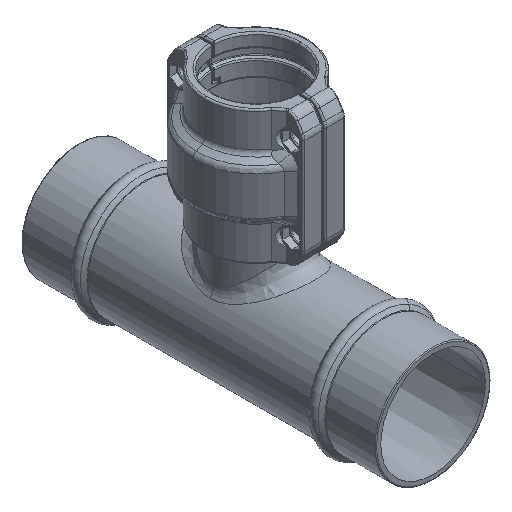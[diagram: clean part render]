
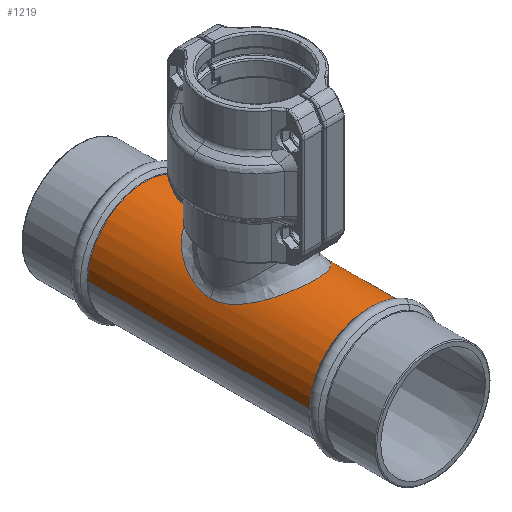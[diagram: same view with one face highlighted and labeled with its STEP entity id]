
A CAD part, isometric view. The second image highlights one B-rep face of the part: STEP entity #1219.
In plain terms, the highlighted cylindrical face has radius 34 mm (diameter 68 mm), a partial arc.
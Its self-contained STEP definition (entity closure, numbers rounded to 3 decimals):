
#237=FACE_BOUND('',#2563,.T.);
#238=FACE_BOUND('',#2564,.T.);
#384=B_SPLINE_CURVE_WITH_KNOTS('',3,(#14492,#14493,#14494,#14495,#14496,
#14497,#14498,#14499,#14500,#14501,#14502,#14503,#14504,#14505,#14506,#14507,
#14508,#14509,#14510,#14511,#14512,#14513),.UNSPECIFIED.,.F.,.F.,(4,1,1,
1,1,1,1,1,1,1,1,1,1,1,1,1,1,1,1,4),(0.,0.055,0.109,
0.168,0.227,0.287,0.346,
0.393,0.44,0.488,0.536,0.58,
0.624,0.68,0.737,0.793,
0.849,0.915,0.958,1.),.UNSPECIFIED.);
#386=B_SPLINE_CURVE_WITH_KNOTS('',3,(#14676,#14677,#14678,#14679,#14680,
#14681,#14682,#14683,#14684,#14685,#14686,#14687,#14688,#14689,#14690,#14691,
#14692,#14693,#14694,#14695,#14696,#14697,#14698),.UNSPECIFIED.,.F.,.F.,
(4,1,1,1,1,1,1,1,1,1,1,1,1,1,1,1,1,1,1,1,4),(0.,0.044,0.089,
0.13,0.171,0.23,0.288,
0.341,0.393,0.437,0.481,0.529,
0.576,0.625,0.674,0.736,
0.798,0.842,0.886,0.943,
1.),.UNSPECIFIED.);
#841=CYLINDRICAL_SURFACE('',#10322,34.);
#1219=ADVANCED_FACE('',(#237,#238),#841,.T.);
#2563=EDGE_LOOP('',(#4235,#4236,#4237,#4238,#4239,#4240,#4241,#4242,#4243));
#2564=EDGE_LOOP('',(#4244,#4245));
#3226=LINE('',#14860,#3692);
#3227=LINE('',#14867,#3693);
#3228=LINE('',#14869,#3694);
#3229=LINE('',#14877,#3695);
#3692=VECTOR('',#11515,1.);
#3693=VECTOR('',#11520,1.);
#3694=VECTOR('',#11521,1.);
#3695=VECTOR('',#11528,1.);
#4235=ORIENTED_EDGE('',*,*,#8184,.F.);
#4236=ORIENTED_EDGE('',*,*,#8185,.F.);
#4237=ORIENTED_EDGE('',*,*,#8186,.F.);
#4238=ORIENTED_EDGE('',*,*,#8187,.T.);
#4239=ORIENTED_EDGE('',*,*,#8188,.F.);
#4240=ORIENTED_EDGE('',*,*,#8189,.F.);
#4241=ORIENTED_EDGE('',*,*,#8190,.F.);
#4242=ORIENTED_EDGE('',*,*,#8191,.F.);
#4243=ORIENTED_EDGE('',*,*,#8192,.T.);
#4244=ORIENTED_EDGE('',*,*,#8181,.F.);
#4245=ORIENTED_EDGE('',*,*,#8183,.F.);
#7259=VERTEX_POINT('',#14491);
#7260=VERTEX_POINT('',#14514);
#7261=VERTEX_POINT('',#14861);
#7262=VERTEX_POINT('',#14862);
#7263=VERTEX_POINT('',#14864);
#7264=VERTEX_POINT('',#14866);
#7265=VERTEX_POINT('',#14868);
#7266=VERTEX_POINT('',#14870);
#7267=VERTEX_POINT('',#14872);
#7268=VERTEX_POINT('',#14874);
#7269=VERTEX_POINT('',#14876);
#8181=EDGE_CURVE('',#7259,#7260,#384,.T.);
#8183=EDGE_CURVE('',#7260,#7259,#386,.T.);
#8184=EDGE_CURVE('',#7261,#7262,#3226,.T.);
#8185=EDGE_CURVE('',#7263,#7261,#9709,.T.);
#8186=EDGE_CURVE('',#7264,#7263,#9710,.T.);
#8187=EDGE_CURVE('',#7264,#7265,#3227,.T.);
#8188=EDGE_CURVE('',#7266,#7265,#3228,.T.);
#8189=EDGE_CURVE('',#7267,#7266,#9711,.T.);
#8190=EDGE_CURVE('',#7268,#7267,#9712,.T.);
#8191=EDGE_CURVE('',#7269,#7268,#9713,.T.);
#8192=EDGE_CURVE('',#7269,#7262,#3229,.T.);
#9709=CIRCLE('',#10317,34.);
#9710=CIRCLE('',#10318,34.);
#9711=CIRCLE('',#10319,34.);
#9712=CIRCLE('',#10320,34.);
#9713=CIRCLE('',#10321,34.);
#10317=AXIS2_PLACEMENT_3D('',#14863,#11516,#11517);
#10318=AXIS2_PLACEMENT_3D('',#14865,#11518,#11519);
#10319=AXIS2_PLACEMENT_3D('',#14871,#11522,#11523);
#10320=AXIS2_PLACEMENT_3D('',#14873,#11524,#11525);
#10321=AXIS2_PLACEMENT_3D('',#14875,#11526,#11527);
#10322=AXIS2_PLACEMENT_3D('',#14878,#11529,#11530);
#11515=DIRECTION('',(0.,-1.,0.));
#11516=DIRECTION('',(0.,1.,0.));
#11517=DIRECTION('',(0.479,0.,0.878));
#11518=DIRECTION('',(0.,1.,0.));
#11519=DIRECTION('',(-1.,0.,0.));
#11520=DIRECTION('',(0.,-1.,0.));
#11521=DIRECTION('',(0.,1.,0.));
#11522=DIRECTION('',(0.,-1.,0.));
#11523=DIRECTION('',(-0.128,0.,0.992));
#11524=DIRECTION('',(0.,-1.,0.));
#11525=DIRECTION('',(0.479,0.,0.878));
#11526=DIRECTION('',(0.,-1.,0.));
#11527=DIRECTION('',(1.,0.,0.));
#11528=DIRECTION('',(0.,1.,0.));
#11529=DIRECTION('',(0.,1.,0.));
#11530=DIRECTION('',(-1.,0.,0.));
#14491=CARTESIAN_POINT('',(10.377,105.,-62.497));
#14492=CARTESIAN_POINT('',(10.377,105.,-62.497));
#14493=CARTESIAN_POINT('',(10.377,103.,-62.497));
#14494=CARTESIAN_POINT('',(10.646,99.005,-62.135));
#14495=CARTESIAN_POINT('',(11.806,93.256,-60.694));
#14496=CARTESIAN_POINT('',(13.668,87.893,-58.683));
#14497=CARTESIAN_POINT('',(16.245,82.92,-56.375));
#14498=CARTESIAN_POINT('',(19.516,78.477,-54.039));
#14499=CARTESIAN_POINT('',(23.262,74.926,-52.022));
#14500=CARTESIAN_POINT('',(27.343,72.296,-50.463));
#14501=CARTESIAN_POINT('',(31.607,70.567,-49.412));
#14502=CARTESIAN_POINT('',(36.264,69.754,-48.91));
#14503=CARTESIAN_POINT('',(40.914,70.014,-49.071));
#14504=CARTESIAN_POINT('',(45.217,71.206,-49.802));
#14505=CARTESIAN_POINT('',(49.381,73.264,-51.043));
#14506=CARTESIAN_POINT('',(53.315,76.263,-52.796));
#14507=CARTESIAN_POINT('',(56.843,80.164,-54.949));
#14508=CARTESIAN_POINT('',(59.71,84.586,-57.183));
#14509=CARTESIAN_POINT('',(62.091,89.764,-59.453));
#14510=CARTESIAN_POINT('',(63.641,95.067,-61.236));
#14511=CARTESIAN_POINT('',(64.462,100.351,-62.283));
#14512=CARTESIAN_POINT('',(64.623,103.45,-62.497));
#14513=CARTESIAN_POINT('',(64.623,105.,-62.497));
#14514=CARTESIAN_POINT('',(64.623,105.,-62.497));
#14676=CARTESIAN_POINT('',(64.623,105.,-62.497));
#14677=CARTESIAN_POINT('',(64.623,106.62,-62.497));
#14678=CARTESIAN_POINT('',(64.447,109.857,-62.262));
#14679=CARTESIAN_POINT('',(63.711,114.394,-61.327));
#14680=CARTESIAN_POINT('',(62.593,118.545,-60.033));
#14681=CARTESIAN_POINT('',(60.962,122.852,-58.344));
#14682=CARTESIAN_POINT('',(58.629,127.276,-56.275));
#14683=CARTESIAN_POINT('',(55.482,131.495,-54.051));
#14684=CARTESIAN_POINT('',(51.804,135.013,-52.058));
#14685=CARTESIAN_POINT('',(47.864,137.606,-50.522));
#14686=CARTESIAN_POINT('',(43.66,139.329,-49.475));
#14687=CARTESIAN_POINT('',(39.266,140.191,-48.944));
#14688=CARTESIAN_POINT('',(34.628,140.081,-49.012));
#14689=CARTESIAN_POINT('',(30.035,138.918,-49.727));
#14690=CARTESIAN_POINT('',(25.848,136.864,-50.967));
#14691=CARTESIAN_POINT('',(21.83,133.865,-52.721));
#14692=CARTESIAN_POINT('',(18.186,129.923,-54.91));
#14693=CARTESIAN_POINT('',(15.353,125.501,-57.139));
#14694=CARTESIAN_POINT('',(13.335,121.148,-59.046));
#14695=CARTESIAN_POINT('',(11.799,116.614,-60.707));
#14696=CARTESIAN_POINT('',(10.669,111.244,-62.103));
#14697=CARTESIAN_POINT('',(10.377,107.084,-62.497));
#14698=CARTESIAN_POINT('',(10.377,105.,-62.497));
#14860=CARTESIAN_POINT('',(71.5,170.698,-83.));
#14861=CARTESIAN_POINT('',(71.5,170.698,-83.));
#14862=CARTESIAN_POINT('',(71.5,105.,-83.));
#14863=CARTESIAN_POINT('',(37.5,170.698,-83.));
#14864=CARTESIAN_POINT('',(53.8,170.698,-53.162));
#14865=CARTESIAN_POINT('',(37.5,170.698,-83.));
#14866=CARTESIAN_POINT('',(3.5,170.698,-83.));
#14867=CARTESIAN_POINT('',(3.5,170.698,-83.));
#14868=CARTESIAN_POINT('',(3.5,105.,-83.));
#14869=CARTESIAN_POINT('',(3.5,39.302,-83.));
#14870=CARTESIAN_POINT('',(3.5,39.302,-83.));
#14871=CARTESIAN_POINT('',(37.5,39.302,-83.));
#14872=CARTESIAN_POINT('',(33.149,39.302,-49.28));
#14873=CARTESIAN_POINT('',(37.5,39.302,-83.));
#14874=CARTESIAN_POINT('',(53.8,39.302,-53.162));
#14875=CARTESIAN_POINT('',(37.5,39.302,-83.));
#14876=CARTESIAN_POINT('',(71.5,39.302,-83.));
#14877=CARTESIAN_POINT('',(71.5,39.302,-83.));
#14878=CARTESIAN_POINT('',(37.5,157.5,-83.));
